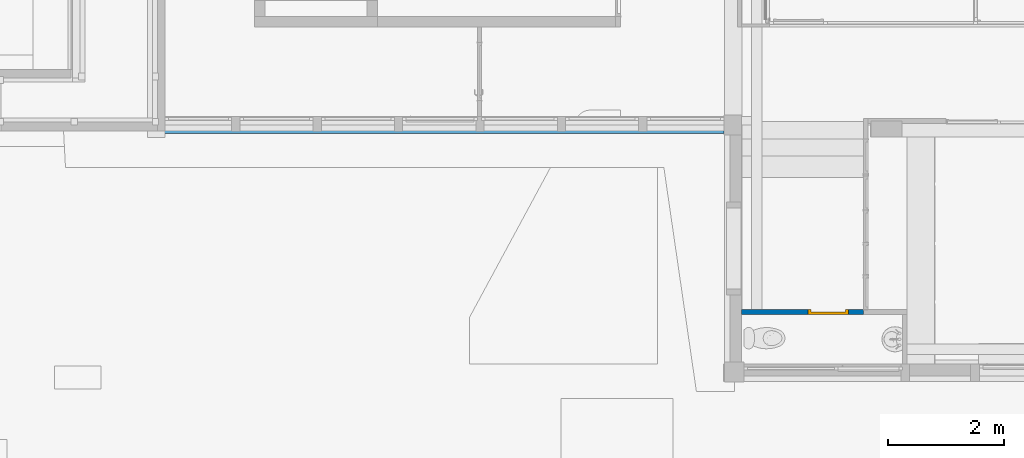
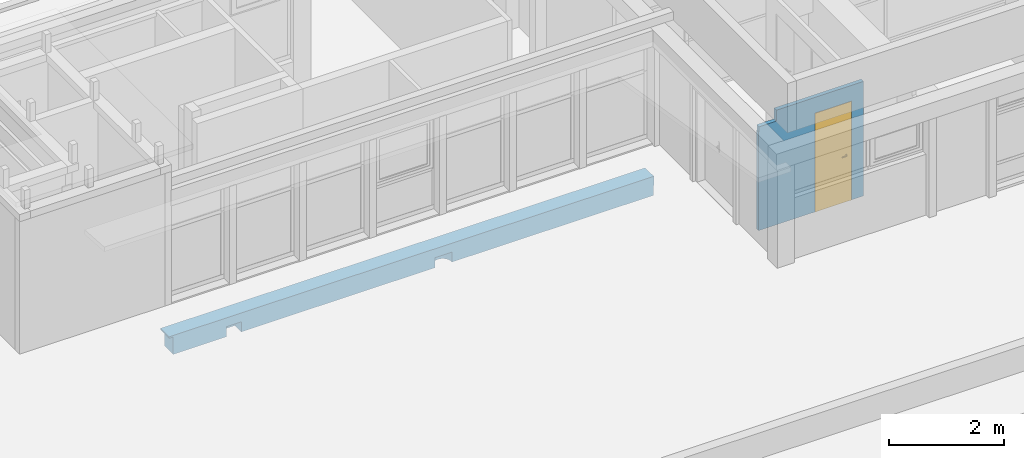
# One storey, part 27 of 49: 1 beam, 1 door, 1 wall, 1 opening.
"""IFC4 building model written with IfcOpenShell, lengths in metres."""

from ifc_helpers import new_model, entity, si_unit, converted_unit, derived_unit, direction, frame, origin, place, context, subcontext, project, spatial, indexed_curve, outline, extrude, polygons, source, transform, mapped, material, material_list, layer, layer_set, constituent, constituent_set, type_object, type_shapes, element, fill, save


model = new_model("IFC4")

# Units and contexts
model_context = context("Model", 3, precision=1e-05, world=origin(), true_north=direction((6.12303176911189e-17, 1.0)))
body_context = subcontext(model_context, "Body", "Model", "MODEL_VIEW")
ifc_project = project(units=[si_unit("LENGTHUNIT", "METRE"), si_unit("AREAUNIT", "SQUARE_METRE"), si_unit("VOLUMEUNIT", "CUBIC_METRE"), converted_unit("PLANEANGLEUNIT", "DEGREE", entity("IfcRatioMeasure", 0.0174532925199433), si_unit("PLANEANGLEUNIT", "RADIAN"), dimensions=[0, 0, 0, 0, 0, 0, 0]), si_unit("MASSUNIT", "GRAM", prefix="KILO"), derived_unit("MASSDENSITYUNIT", [(si_unit("MASSUNIT", "GRAM", prefix="KILO"), 1), (si_unit("LENGTHUNIT", "METRE"), -3)]), derived_unit("MOMENTOFINERTIAUNIT", [(si_unit("LENGTHUNIT", "METRE"), 4)]), si_unit("TIMEUNIT", "SECOND"), si_unit("FREQUENCYUNIT", "HERTZ"), si_unit("THERMODYNAMICTEMPERATUREUNIT", "DEGREE_CELSIUS"), derived_unit("THERMALTRANSMITTANCEUNIT", [(si_unit("MASSUNIT", "GRAM", prefix="KILO"), 1), (si_unit("THERMODYNAMICTEMPERATUREUNIT", "KELVIN"), -1), (si_unit("TIMEUNIT", "SECOND"), -3)]), derived_unit("VOLUMETRICFLOWRATEUNIT", [(si_unit("LENGTHUNIT", "METRE"), 3), (si_unit("TIMEUNIT", "SECOND"), -1)]), si_unit("ELECTRICCURRENTUNIT", "AMPERE"), si_unit("ELECTRICVOLTAGEUNIT", "VOLT"), si_unit("POWERUNIT", "WATT"), si_unit("FORCEUNIT", "NEWTON", prefix="KILO"), si_unit("ILLUMINANCEUNIT", "LUX"), si_unit("LUMINOUSFLUXUNIT", "LUMEN"), si_unit("LUMINOUSINTENSITYUNIT", "CANDELA"), derived_unit("USERDEFINED", [(si_unit("MASSUNIT", "GRAM", prefix="KILO"), -1), (si_unit("LENGTHUNIT", "METRE"), -2), (si_unit("TIMEUNIT", "SECOND"), 3), (si_unit("LUMINOUSFLUXUNIT", "LUMEN"), 1)]), derived_unit("LINEARVELOCITYUNIT", [(si_unit("LENGTHUNIT", "METRE"), 1), (si_unit("TIMEUNIT", "SECOND"), -1)]), si_unit("PRESSUREUNIT", "PASCAL"), derived_unit("USERDEFINED", [(si_unit("LENGTHUNIT", "METRE"), -2), (si_unit("MASSUNIT", "GRAM", prefix="KILO"), 1), (si_unit("TIMEUNIT", "SECOND"), -2)]), derived_unit("LINEARFORCEUNIT", [(si_unit("MASSUNIT", "GRAM", prefix="KILO"), 1), (si_unit("LENGTHUNIT", "METRE"), 1), (si_unit("TIMEUNIT", "SECOND"), -2), (si_unit("LENGTHUNIT", "METRE"), -1)]), derived_unit("PLANARFORCEUNIT", [(si_unit("MASSUNIT", "GRAM", prefix="KILO"), 1), (si_unit("LENGTHUNIT", "METRE"), 1), (si_unit("TIMEUNIT", "SECOND"), -2), (si_unit("LENGTHUNIT", "METRE"), -2)])], contexts=[model_context])

# Site, building, storey
site_placement = place(None, origin())
site = spatial("IfcSite", under=ifc_project, at=site_placement, Name="Default", CompositionType="ELEMENT")
building_placement = place(site_placement, origin())
building = spatial("IfcBuilding", under=site, at=building_placement, Name="HOTEL CONSULAIRE BOULOGNE SUR MER", CompositionType="ELEMENT")
storey_placement = place(building_placement, frame((0.0, 0.0, 6.81974152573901)))
storey = spatial("IfcBuildingStorey", under=building, at=storey_placement, Name="Niveau 2", CompositionType="ELEMENT", Elevation=6.81974152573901)

# Beam
ifc_material_1 = material(Name="Béton - Béton coulé sur place", Category="Béton")
beam_type = type_object("IfcBeamType", Name="Poutre rectangulaire - Béton:300X400", PredefinedType="BEAM", material=ifc_material_1)
shared_shape_1 = source(origin(), body_context, "Body", "Tessellation", [
    polygons([(-2.70716782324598e-16, 0.00158750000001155, 0.4), (2.70716782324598e-16, 0.199582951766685, 0.4), (5.41433564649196e-16, 0.301587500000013, 0.4), (5.41433564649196e-16, 0.301587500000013, 0.370000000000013), (-2.70716782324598e-16, 0.00158750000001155, 0.370000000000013), (9.69193610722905, 0.301587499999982, 0.4), (9.69193610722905, 0.301587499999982, 0.365000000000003), (3.65673242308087, 0.3015875, 0.365000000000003), (3.65673242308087, 0.3015875, 0.215000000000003), (8.64347045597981, 0.301587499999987, 0.215000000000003), (9.69193610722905, 0.301587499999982, 0.215000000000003), (9.69193610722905, 0.301587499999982, 0.0), (8.6434704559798, 0.301587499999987, 0.0), (0.0774638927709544, 0.301587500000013, 0.0), (0.0774638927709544, 0.301587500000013, 0.370000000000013), (5.65416935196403, 0.0255422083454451, 0.0), (5.64837674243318, 0.0695414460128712, 0.0), (5.63139367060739, 0.110542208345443, 0.0), (5.60437750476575, 0.145750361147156, 0.0), (5.56916935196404, 0.172766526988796, 0.0), (5.52816858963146, 0.189749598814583, 0.0), (5.48416935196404, 0.195542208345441, 0.0), (5.44017011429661, 0.189749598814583, 0.0), (5.39916935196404, 0.172766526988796, 0.0), (5.36396119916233, 0.145750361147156, 0.0), (5.33694503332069, 0.110542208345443, 0.0), (5.3199619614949, 0.0695414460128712, 0.0), (5.31416935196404, 0.0255422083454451, 0.0), (5.31459393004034, 0.0135348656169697, 0.0), (5.31586554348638, 0.00158749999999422, 0.0), (3.74704788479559, 0.00158749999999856, 0.0), (1.47780618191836, 0.00158750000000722, 0.0), (1.44116935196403, 0.00158750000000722, 0.0), (1.44116935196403, 0.221587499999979, 0.0), (1.40780618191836, 0.221587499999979, 0.0), (1.14116935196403, 0.221587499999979, 0.0), (1.14116935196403, 0.219582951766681, 0.0), (1.14116935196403, 0.00158750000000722, 0.0), (0.0774638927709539, 0.00158750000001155, 0.0), (9.69193610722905, 0.185297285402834, 0.0), (9.68725133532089, 0.185297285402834, 0.0), (9.68725133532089, 0.00158749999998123, 0.0), (8.6434704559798, 0.00158749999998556, 0.0), (5.65247316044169, 0.00158749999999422, 0.0), (5.65374477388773, 0.0135348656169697, 0.0), (9.69193610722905, 0.00158749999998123, 0.4), (0.0774638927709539, 0.00158750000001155, 0.370000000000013), (1.14116935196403, 0.00158750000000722, 0.212000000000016), (1.44116935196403, 0.00158750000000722, 0.212000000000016), (5.31586554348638, 0.00158749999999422, 0.212000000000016), (5.65247316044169, 0.00158749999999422, 0.212000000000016), (9.68725133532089, 0.00158749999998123, 0.212000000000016), (9.69193610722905, 0.00158749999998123, 0.212000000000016), (9.69193610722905, 0.00158749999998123, 0.365000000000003), (9.69193610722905, 0.199582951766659, 0.4), (9.69193610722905, 0.299582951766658, 0.4), (9.69193610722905, 0.185297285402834, 0.212000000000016), (9.69193610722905, 0.299582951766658, 0.215000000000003), (9.69193610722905, 0.199582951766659, 0.215000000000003), (9.69193610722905, 0.174582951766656, 0.215000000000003), (9.69193610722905, 0.174582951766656, 0.365000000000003), (9.69193610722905, 0.199582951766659, 0.365000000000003), (9.69193610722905, 0.299582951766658, 0.365000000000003), (5.65416935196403, 0.0255422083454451, 0.212000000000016), (5.64837674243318, 0.0695414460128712, 0.212000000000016), (5.63139367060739, 0.110542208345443, 0.212000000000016), (5.60437750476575, 0.145750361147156, 0.212000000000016), (5.56916935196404, 0.172766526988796, 0.212000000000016), (5.52816858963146, 0.189749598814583, 0.212000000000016), (5.48416935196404, 0.195542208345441, 0.212000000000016), (5.44017011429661, 0.189749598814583, 0.212000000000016), (5.39916935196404, 0.172766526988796, 0.212000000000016), (5.36396119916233, 0.145750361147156, 0.212000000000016), (5.33694503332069, 0.110542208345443, 0.212000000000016), (5.3199619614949, 0.0695414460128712, 0.212000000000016), (5.31416935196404, 0.0255422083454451, 0.212000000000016), (5.31459634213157, 0.0135008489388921, 0.212000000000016), (5.31416935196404, 0.0255422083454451, 0.11381580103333), (5.31586554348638, 0.00158749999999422, 0.0981845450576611), (5.31461062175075, 0.0133014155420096, 0.124219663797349), (5.65374197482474, 0.0134954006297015, 0.212000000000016), (5.65247316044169, 0.00158749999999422, 0.0981843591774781), (5.65416935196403, 0.0255422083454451, 0.1138156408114), (5.65372808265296, 0.0133014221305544, 0.124219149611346), (1.44116935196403, 0.221587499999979, 0.212000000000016), (1.14116935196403, 0.221587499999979, 0.212000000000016), (9.68725133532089, 0.185297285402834, 0.212000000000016), (3.65673242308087, 0.174582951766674, 0.215000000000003), (3.65673242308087, 0.199582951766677, 0.215000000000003), (3.65673242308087, 0.174582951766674, 0.365000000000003), (3.65673242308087, 0.199582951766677, 0.365000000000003)], [[[2, 3, 4, 5, 1]], [[33, 49, 85, 34]], [[47, 15, 14, 39]], [[15, 4, 3, 6, 7, 8, 9, 10, 11, 12, 13, 14]], [[61, 60, 88, 90]], [[35, 36, 37, 38, 39, 14, 13, 12, 40, 41, 42, 43, 44, 45, 16, 17, 18, 19, 20, 21, 22, 23, 24, 25, 26, 27, 28, 29, 30, 31, 32, 33, 34]], [[81, 51, 50, 77, 76, 75, 74, 73, 72, 71, 70, 69, 68, 67, 66, 65, 64]], [[48, 86, 85, 49]], [[52, 87, 57, 53]], [[5, 4, 15, 47]], [[63, 62, 61, 90, 91, 8, 7]], [[32, 31, 30, 79, 50, 51, 82, 44, 43, 42, 52, 53, 54, 46, 1, 5, 47, 39, 38, 48, 49, 33]], [[35, 34, 85, 86, 36]], [[40, 57, 87, 41]], [[2, 1, 46, 55, 56, 6, 3]], [[10, 9, 89, 88, 60, 59, 58, 11]], [[53, 57, 40, 12, 11, 58, 59, 60, 61, 62, 63, 7, 6, 56, 55, 46, 54]], [[37, 36, 86, 48, 38]], [[41, 87, 52, 42]], [[90, 88, 89, 9, 8, 91]], [[16, 83, 64, 65, 17]], [[17, 65, 66, 18]], [[19, 67, 68, 20]], [[66, 67, 19, 18]], [[21, 20, 68, 69]], [[69, 70, 22, 21]], [[72, 73, 25, 24]], [[71, 72, 24, 23]], [[75, 76, 78, 28, 27]], [[74, 75, 27, 26]], [[73, 74, 26, 25]], [[23, 22, 70, 71]], [[30, 29, 79]], [[78, 80, 29]], [[80, 79, 29]], [[29, 28, 78]], [[78, 76, 80]], [[80, 76, 77]], [[79, 80, 50]], [[80, 77, 50]], [[84, 83, 45]], [[44, 82, 45]], [[81, 84, 51]], [[83, 84, 64]], [[83, 16, 45]], [[84, 82, 51]], [[84, 81, 64]], [[82, 84, 45]]], closed=True),
])
type_shapes(beam_type, [shared_shape_1])
beam_placement = place(storey_placement, frame((1.6800074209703, -19.864497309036, -0.400000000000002)))
element("IfcBeam", 1, at=beam_placement, inside=storey, type_object=beam_type, material=ifc_material_1, Name="Poutre rectangulaire - Béton:300X400", ObjectType="Poutre rectangulaire - Béton:300X400", PredefinedType="BEAM", context=body_context, shape_type="MappedRepresentation", body=[
    mapped(shared_shape_1, transform((0.0, 0.0, 0.0), scale=1.0)),
])

# Wall, opening, door
ifc_material_2 = material(Name="Mur par défaut", Category="Divers")
ifc_layer = layer(ifc_material_2, 0.08, Name="Mur par défaut", Category="Divers")
ifc_layer_set = layer_set([ifc_layer], Name="Mur de base:Générique - Int. 80")
wall_type = type_object("IfcWallType", Name="Mur de base:Générique - Int. 80", PredefinedType="NOTDEFINED", material=ifc_layer_set)
wall_placement = place(storey_placement, frame((13.7690496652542, -22.9295936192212, 0.63), z_axis=(0.0, 0.0, 1.0), x_axis=(-1.0, 0.0, 0.0)))
wall = element("IfcWall", 2, at=wall_placement, inside=storey, type_object=wall_type, material=ifc_layer_set, Name="Mur de base:Générique - Int. 80", ObjectType="Mur de base:Générique - Int. 80", PredefinedType="NOTDEFINED", context=body_context, shape_type="Tessellation", body=[
    polygons([(0.255999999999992, -0.0399999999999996, 0.0), (0.0, -0.0399999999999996, 0.0), (0.0, 0.0399999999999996, 0.0), (0.255999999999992, 0.0399999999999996, 0.0), (2.09710613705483, -0.0399999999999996, 2.082), (2.08714096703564, -0.0399999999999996, 2.082), (2.08714096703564, -0.0399999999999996, 2.192), (1.74210613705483, -0.0399999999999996, 2.192), (1.74210613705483, -0.0399999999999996, 2.422), (0.0, -0.0399999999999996, 2.422), (0.0, -0.0399999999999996, 2.00500000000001), (0.0, -0.0399999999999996, 0.12), (0.255999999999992, -0.0399999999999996, 2.07500000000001), (0.955999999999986, -0.0399999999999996, 2.07500000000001), (0.955999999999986, -0.0399999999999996, 0.0), (2.09710613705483, -0.0399999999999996, 0.0), (2.08714096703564, 0.0399999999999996, 2.192), (2.08714096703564, 0.0399999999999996, 2.082), (2.09710613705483, 0.0399999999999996, 2.082), (2.09710613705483, 0.0399999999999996, 0.0), (0.955999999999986, 0.0399999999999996, 0.0), (0.955999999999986, 0.0399999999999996, 2.07500000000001), (0.255999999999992, 0.0399999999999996, 2.07500000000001), (0.0, 0.0399999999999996, 2.422), (1.74210613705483, 0.0399999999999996, 2.422), (1.74210613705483, 0.0399999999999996, 2.192)], [[[4, 1, 2, 3]], [[22, 14, 13, 23]], [[20, 16, 15, 21]], [[2, 1, 13, 14, 15, 16, 5, 6, 7, 8, 9, 10, 11, 12]], [[20, 21, 22, 23, 4, 3, 24, 25, 26, 17, 18, 19]], [[5, 16, 20, 19]], [[17, 7, 6, 18]], [[4, 23, 13, 1]], [[8, 26, 25, 9]], [[18, 6, 5, 19]], [[10, 9, 25, 24]], [[7, 17, 26, 8]], [[22, 21, 15, 14]], [[3, 2, 12, 11, 10, 24]]], closed=True),
])
opening_placement = place(wall_placement, frame((0.255999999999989, -0.04, 0.0)))
opening = element("IfcOpeningElement", 3, at=opening_placement, cuts=wall, Name="Int. Simple:PP (0.63m x 2.04m):1", ObjectType="Opening", PredefinedType="OPENING", context=body_context, shape_type="SweptSolid", body=[
    extrude(outline(indexed_curve([(0.0, 0.699999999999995), (0.0, 0.0), (2.07500000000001, 0.0), (2.07500000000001, 0.699999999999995), (0.0, 0.699999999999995)], self_intersect=False)), frame((0.0, 0.0, 0.0), z_axis=(0.0, 1.0, 0.0), x_axis=(0.0, 0.0, 1.0)), (0.0, 0.0, 1.0), 0.08),
])
ifc_material_3 = material(Name="Finition Peinture - Blanc satiné", Category="Peinture")
ifc_constituent_1 = constituent(ifc_material_3, Name="Finition Peinture - Blanc satiné", Category="Matériaux")
ifc_material_4 = material(Name="Bois - Panneau de porte", Category="Bois")
ifc_constituent_2 = constituent(ifc_material_4, Name="Bois - Panneau de porte", Category="Matériaux")
ifc_material_5 = material(Name="Bois - Cadre de porte", Category="Bois")
ifc_constituent_3 = constituent(ifc_material_5, Name="Bois - Cadre de porte", Category="Matériaux")
ifc_constituent_set = constituent_set(constituents=[ifc_constituent_1, ifc_constituent_2, ifc_constituent_3], Name="MaterialConstituentSet")
ifc_material_list = material_list([ifc_material_5, ifc_material_5, ifc_material_4, ifc_material_3])
door_type = type_object("IfcDoorType", Name="Int. Simple:PP (0.63m x 2.04m)", OperationType="NOTDEFINED", PredefinedType="DOOR", material=ifc_material_list)
shared_shape_2 = source(origin(), body_context, "Body", "Tessellation", [
    polygons([(0.695000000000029, -0.00500000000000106, 0.870000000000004), (0.695000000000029, -0.00500000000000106, 1.08), (0.68535276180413, -0.00500000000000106, 1.08399601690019), (0.675000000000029, -0.00500000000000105, 1.08535898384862), (0.664647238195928, -0.00500000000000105, 1.08399601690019), (0.65500000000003, -0.00500000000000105, 1.08), (0.655000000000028, -0.00500000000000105, 0.870000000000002), (0.664647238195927, -0.00500000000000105, 0.866003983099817), (0.675000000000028, -0.00500000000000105, 0.86464101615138), (0.685352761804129, -0.00500000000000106, 0.866003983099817), (0.695000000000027, -1.06594733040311e-15, 0.870000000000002), (0.685352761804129, -1.06594733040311e-15, 0.866003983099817), (0.675000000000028, -1.05748743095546e-15, 0.86464101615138), (0.664647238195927, -1.05748743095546e-15, 0.866003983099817), (0.655000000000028, -1.04902753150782e-15, 0.870000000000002), (0.655000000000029, -1.04902753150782e-15, 1.08), (0.664647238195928, -1.05748743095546e-15, 1.08399601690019), (0.675000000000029, -1.05748743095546e-15, 1.08535898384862), (0.68535276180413, -1.06594733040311e-15, 1.08399601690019), (0.695000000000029, -1.06594733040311e-15, 1.08)], [[[1, 2, 3, 4, 5, 6, 7, 8, 9, 10]], [[20, 11, 12, 13, 14, 15, 16, 17, 18, 19]], [[10, 12, 11, 1]], [[9, 13, 12, 10]], [[8, 14, 13, 9]], [[8, 7, 15, 14]], [[15, 7, 6, 16]], [[5, 17, 16, 6]], [[4, 18, 17, 5]], [[3, 19, 18, 4]], [[3, 2, 20, 19]], [[11, 20, 2, 1]]], closed=True),
    polygons([(0.65500000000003, 0.0399999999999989, 1.08), (0.655000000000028, 0.0399999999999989, 0.870000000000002), (0.664647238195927, 0.0399999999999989, 0.866003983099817), (0.675000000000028, 0.0399999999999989, 0.86464101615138), (0.685352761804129, 0.0399999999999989, 0.866003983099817), (0.695000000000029, 0.0399999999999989, 0.870000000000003), (0.695000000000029, 0.0399999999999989, 1.08), (0.68535276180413, 0.0399999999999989, 1.08399601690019), (0.675000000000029, 0.0399999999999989, 1.08535898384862), (0.664647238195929, 0.0399999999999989, 1.08399601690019), (0.65500000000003, 0.0449999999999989, 1.08), (0.664647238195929, 0.0449999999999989, 1.08399601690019), (0.675000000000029, 0.0449999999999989, 1.08535898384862), (0.68535276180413, 0.0449999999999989, 1.08399601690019), (0.695000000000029, 0.0449999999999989, 1.08), (0.695000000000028, 0.0449999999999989, 0.870000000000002), (0.685352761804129, 0.0449999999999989, 0.866003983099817), (0.675000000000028, 0.0449999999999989, 0.86464101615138), (0.664647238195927, 0.0449999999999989, 0.866003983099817), (0.655000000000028, 0.0449999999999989, 0.870000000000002)], [[[6, 7, 8, 9, 10, 1, 2, 3, 4, 5]], [[13, 14, 15, 16, 17, 18, 19, 20, 11, 12]], [[10, 12, 11, 1]], [[9, 13, 12, 10]], [[8, 14, 13, 9]], [[8, 7, 15, 14]], [[16, 15, 7, 6]], [[5, 17, 16, 6]], [[4, 18, 17, 5]], [[3, 19, 18, 4]], [[3, 2, 20, 19]], [[20, 2, 1, 11]]], closed=True),
    polygons([(0.681000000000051, -0.00500000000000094, 1.00699999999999), (0.68100000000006, -0.00500000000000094, 0.992999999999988), (0.677025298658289, -0.00500000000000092, 0.99221955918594), (0.67297470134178, -0.0050000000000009, 0.992219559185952), (0.669000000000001, -0.00500000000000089, 0.993000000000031), (0.669000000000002, -0.00500000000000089, 1.007), (0.672974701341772, -0.0050000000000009, 1.00778044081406), (0.677025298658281, -0.00500000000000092, 1.00778044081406), (0.669000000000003, -0.0276803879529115, 1.007), (0.672974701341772, -0.0293267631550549, 1.00778044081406), (0.677025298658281, -0.0310045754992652, 1.00778044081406), (0.681000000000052, -0.0326509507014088, 1.007), (0.669000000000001, -0.0276803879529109, 0.993000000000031), (0.68100000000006, -0.0326509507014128, 0.992999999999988), (0.677025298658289, -0.0310045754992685, 0.99221955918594), (0.67297470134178, -0.0293267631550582, 0.992219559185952), (0.657652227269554, -0.0390281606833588, 1.007), (0.659298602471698, -0.0430028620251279, 1.00778044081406), (0.660976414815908, -0.0470534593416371, 1.00778044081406), (0.662622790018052, -0.0510281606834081, 1.007), (0.657652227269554, -0.0390281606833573, 0.993000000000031), (0.662622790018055, -0.0510281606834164, 0.992999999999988), (0.660976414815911, -0.047053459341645, 0.99221955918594), (0.659298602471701, -0.0430028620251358, 0.992219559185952), (0.574981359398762, -0.0510281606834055, 1.007), (0.574981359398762, -0.0470534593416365, 1.00778044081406), (0.574981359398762, -0.0430028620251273, 1.00778044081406), (0.574981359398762, -0.0390281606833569, 1.00699999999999), (0.574981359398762, -0.0390281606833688, 0.993000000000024), (0.574981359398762, -0.0430028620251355, 0.992219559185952), (0.574981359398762, -0.0470534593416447, 0.99221955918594), (0.574981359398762, -0.0510281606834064, 0.992999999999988), (0.622692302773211, -0.051028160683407, 1.007), (0.617139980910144, -0.045028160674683, 1.0078786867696), (0.616316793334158, -0.039028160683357, 1.007), (0.622692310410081, -0.0510281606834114, 0.992999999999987), (0.617139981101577, -0.0450281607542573, 0.992121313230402), (0.61631679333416, -0.039028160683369, 0.993000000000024)], [[[7, 8, 1, 2, 3, 4, 5, 6]], [[17, 21, 38, 29, 28, 35]], [[1, 8, 11, 12]], [[8, 7, 10, 18, 19, 11]], [[7, 6, 9, 10]], [[13, 9, 6, 5]], [[25, 26, 27, 28, 29, 30, 31, 32]], [[4, 16, 13, 5]], [[4, 3, 15, 23, 24, 16]], [[2, 14, 15, 3]], [[12, 14, 2, 1]], [[12, 11, 19, 20]], [[10, 9, 17, 18]], [[21, 17, 9, 13]], [[13, 16, 24, 21]], [[15, 14, 22, 23]], [[20, 22, 14, 12]], [[34, 26, 33]], [[33, 26, 25]], [[33, 20, 19]], [[18, 35, 34]], [[35, 18, 17]], [[28, 27, 35]], [[34, 27, 26]], [[34, 35, 27]], [[34, 33, 19]], [[18, 34, 19]], [[37, 30, 38]], [[31, 37, 36]], [[24, 38, 21]], [[30, 29, 38]], [[31, 36, 32]], [[36, 23, 22]], [[37, 23, 36]], [[37, 24, 23]], [[37, 38, 24]], [[30, 37, 31]], [[22, 20, 33, 25, 32, 36]]], closed=True),
    polygons([(0.66900000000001, 0.0449999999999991, 0.993000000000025), (0.672974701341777, 0.0449999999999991, 0.992219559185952), (0.677025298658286, 0.0449999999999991, 0.99221955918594), (0.681000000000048, 0.044999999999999, 0.992999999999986), (0.681000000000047, 0.044999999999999, 1.007), (0.677025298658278, 0.0449999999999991, 1.00778044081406), (0.672974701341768, 0.0449999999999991, 1.00778044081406), (0.668999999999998, 0.0449999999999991, 1.007), (0.668999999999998, 0.067485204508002, 1.007), (0.668999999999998, 0.0674852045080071, 0.993000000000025), (0.681000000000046, 0.0724557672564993, 1.007), (0.677025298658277, 0.070809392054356, 1.00778044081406), (0.672974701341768, 0.0691315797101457, 1.00778044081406), (0.681000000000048, 0.0724557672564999, 0.992999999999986), (0.672974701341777, 0.0691315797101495, 0.992219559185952), (0.677025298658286, 0.0708093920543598, 0.99221955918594), (0.65751471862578, 0.0789704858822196, 1.007), (0.657514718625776, 0.0789704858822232, 0.993000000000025), (0.662485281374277, 0.0909704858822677, 1.007), (0.660838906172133, 0.0869957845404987, 1.00778044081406), (0.659161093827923, 0.0829451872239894, 1.00778044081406), (0.662485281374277, 0.0909704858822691, 0.992999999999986), (0.659161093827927, 0.0829451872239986, 0.992219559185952), (0.660838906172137, 0.0869957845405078, 0.99221955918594), (0.574954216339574, 0.0789704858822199, 0.993000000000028), (0.574954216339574, 0.0789704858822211, 1.007), (0.574954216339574, 0.0829451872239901, 1.00778044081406), (0.574954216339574, 0.0869957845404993, 1.00778044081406), (0.574954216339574, 0.0909704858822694, 1.007), (0.574954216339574, 0.0909704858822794, 0.992999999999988), (0.574954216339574, 0.086995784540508, 0.99221955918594), (0.574954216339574, 0.0829451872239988, 0.992219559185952), (0.62255479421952, 0.0909704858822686, 1.007), (0.617057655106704, 0.0849704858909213, 1.0078786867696), (0.616234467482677, 0.0789704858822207, 1.007), (0.622554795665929, 0.0909704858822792, 0.992999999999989), (0.617057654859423, 0.0849704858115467, 0.992121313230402), (0.616234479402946, 0.0789704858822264, 0.993000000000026)], [[[2, 3, 4, 5, 6, 7, 8, 1]], [[18, 17, 35, 26, 25, 38]], [[9, 10, 1, 8]], [[27, 28, 29, 30, 31, 32, 25, 26]], [[7, 13, 9, 8]], [[7, 6, 12, 20, 21, 13]], [[5, 11, 12, 6]], [[11, 5, 4, 14]], [[4, 3, 16, 14]], [[3, 2, 15, 23, 24, 16]], [[2, 1, 10, 15]], [[17, 18, 10, 9]], [[9, 13, 21, 17]], [[11, 19, 20, 12]], [[22, 19, 11, 14]], [[14, 16, 24, 22]], [[15, 10, 18, 23]], [[34, 27, 35]], [[28, 34, 33]], [[21, 35, 17]], [[27, 26, 35]], [[28, 33, 29]], [[33, 20, 19]], [[34, 20, 33]], [[34, 21, 20]], [[34, 35, 21]], [[27, 34, 28]], [[19, 22, 36, 30, 29, 33]], [[37, 31, 36]], [[36, 31, 30]], [[36, 22, 24]], [[23, 38, 37]], [[38, 23, 18]], [[25, 32, 38]], [[37, 32, 31]], [[37, 38, 32]], [[37, 36, 24]], [[23, 37, 24]]], closed=True),
    polygons([(0.735000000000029, 0.04, 2.04), (0.735000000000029, 0.04, 0.0), (0.105000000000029, 0.04, 0.0), (0.105000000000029, 0.04, 2.04), (0.735000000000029, 3.38395977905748e-17, 2.04), (0.105000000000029, 3.38395977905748e-17, 2.04), (0.105000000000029, 3.38395977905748e-17, 0.0), (0.735000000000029, 3.38395977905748e-17, 0.0)], [[[4, 1, 2, 3]], [[5, 6, 7, 8]], [[5, 1, 4, 6]], [[6, 4, 3, 7]], [[7, 3, 2, 8]], [[8, 2, 1, 5]]], closed=True),
    polygons([(0.770000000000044, -8.45989944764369e-18, 0.0), (0.735000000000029, -8.45989944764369e-18, 0.0), (0.735000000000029, 0.0400000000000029, 0.0), (0.720000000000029, 0.0400000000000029, 0.0), (0.720000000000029, 0.080000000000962, 0.0), (0.770000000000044, 0.080000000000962, 0.0), (0.770000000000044, 0.080000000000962, 2.07500000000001), (0.770000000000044, -8.45989944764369e-18, 2.07500000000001), (0.720000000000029, 0.080000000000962, 2.025), (0.120000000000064, 0.080000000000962, 2.025), (0.120000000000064, 0.080000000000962, -1.79828591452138e-24), (0.0700000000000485, 0.080000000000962, 1.16645647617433e-24), (0.0700000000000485, 0.080000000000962, 2.07500000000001), (0.720000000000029, 0.0400000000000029, 2.025), (0.735000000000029, 0.0400000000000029, 2.04), (0.105000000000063, 0.0400000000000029, 2.04), (0.105000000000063, 0.0400000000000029, 1.46419166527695e-24), (0.120000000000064, 0.0400000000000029, 1.49408317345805e-25), (0.120000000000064, 0.0400000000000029, 2.025), (0.735000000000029, -8.45989944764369e-18, 2.04), (0.0700000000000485, -8.45989944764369e-18, 2.07500000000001), (0.0700000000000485, -8.45989944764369e-18, 4.03399441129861e-24), (0.105000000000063, -8.45989944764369e-18, 0.0), (0.105000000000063, -8.45989944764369e-18, 2.04)], [[[5, 6, 1, 2, 3, 4]], [[17, 23, 22, 12, 11, 18]], [[19, 10, 9, 14]], [[16, 15, 20, 24]], [[7, 8, 1, 6]], [[18, 11, 10, 19]], [[17, 16, 24, 23]], [[9, 10, 11, 12, 13, 7, 6, 5]], [[9, 5, 4, 14]], [[15, 3, 2, 20]], [[12, 22, 21, 13]], [[19, 14, 4, 3, 15, 16, 17, 18]], [[24, 20, 2, 1, 8, 21, 22, 23]], [[13, 21, 8, 7]]], closed=True),
    polygons([(0.755000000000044, 0.080000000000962, 0.0), (0.755000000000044, 0.085000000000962, 0.0), (0.785000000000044, 0.085000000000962, 0.0), (0.785000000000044, 0.080000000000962, 0.0), (0.785000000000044, 0.080000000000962, 2.09000000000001), (0.0550000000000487, 0.080000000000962, 2.09000000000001), (0.0550000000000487, 0.080000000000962, 1.09662010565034e-24), (0.0850000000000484, 0.080000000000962, -5.40476896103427e-24), (0.0850000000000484, 0.080000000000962, 2.06000000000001), (0.755000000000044, 0.080000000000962, 2.06000000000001), (0.785000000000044, 0.085000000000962, 2.09000000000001), (0.755000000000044, 0.085000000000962, 2.06000000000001), (0.0850000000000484, 0.085000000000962, 2.06000000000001), (0.0850000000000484, 0.085000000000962, 3.01102000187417e-24), (0.0550000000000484, 0.085000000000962, 9.94022571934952e-24), (0.0550000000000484, 0.085000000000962, 2.09000000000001)], [[[2, 3, 4, 1]], [[7, 15, 14, 8]], [[13, 12, 10, 9]], [[9, 10, 1, 4, 5, 6, 7, 8]], [[11, 5, 4, 3]], [[8, 14, 13, 9]], [[12, 13, 14, 15, 16, 11, 3, 2]], [[12, 2, 1, 10]], [[15, 7, 6, 16]], [[16, 6, 5, 11]]], closed=True),
    polygons([(0.755000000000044, -0.00499999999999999, 0.0), (0.755000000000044, -8.45989944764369e-18, 0.0), (0.785000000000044, -8.45989944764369e-18, 0.0), (0.785000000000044, -0.00499999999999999, 0.0), (0.0850000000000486, -0.00499999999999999, -5.41433564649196e-16), (0.0550000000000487, -0.00499999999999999, -5.41433564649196e-16), (0.0550000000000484, -8.45989944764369e-18, -5.41433564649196e-16), (0.0850000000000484, -8.45989944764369e-18, -5.41433564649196e-16), (0.785000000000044, -0.00499999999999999, 2.09000000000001), (0.0550000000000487, -0.00499999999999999, 2.09000000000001), (0.0850000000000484, -0.00499999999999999, 2.06000000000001), (0.755000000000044, -0.00499999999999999, 2.06000000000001), (0.785000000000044, -8.45989944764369e-18, 2.09000000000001), (0.755000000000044, -8.45989944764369e-18, 2.06000000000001), (0.0850000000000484, -8.45989944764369e-18, 2.06000000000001), (0.0550000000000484, -8.45989944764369e-18, 2.09000000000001)], [[[2, 3, 4, 1]], [[6, 7, 8, 5]], [[15, 14, 12, 11]], [[11, 12, 1, 4, 9, 10, 6, 5]], [[9, 4, 3, 13]], [[5, 8, 15, 11]], [[14, 15, 8, 7, 16, 13, 3, 2]], [[12, 14, 2, 1]], [[7, 6, 10, 16]], [[16, 10, 9, 13]]], closed=True),
])
type_shapes(door_type, [shared_shape_2])
door_placement = place(opening_placement, frame((0.770000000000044, 0.0799999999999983, 0.0), z_axis=(0.0, 0.0, 1.0), x_axis=(-1.0, 0.0, 0.0)))
door = element("IfcDoor", 4, at=door_placement, inside=storey, type_object=door_type, material=ifc_constituent_set, Name="Int. Simple:PP (0.63m x 2.04m)", ObjectType="Int. Simple:PP (0.63m x 2.04m)", OperationType="NOTDEFINED", OverallHeight=2.07500000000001, OverallWidth=0.699999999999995, PredefinedType="DOOR", context=body_context, shape_type="MappedRepresentation", body=[
    mapped(shared_shape_2, transform((0.0, 0.0, 0.0), scale=1.0)),
])
fill(opening, door)

save(model, "model.ifc")
